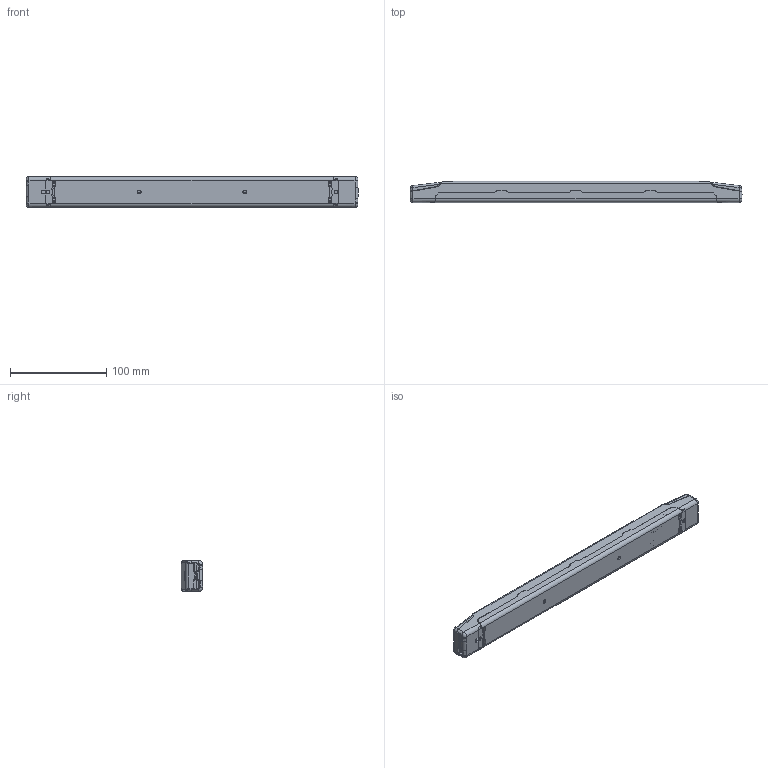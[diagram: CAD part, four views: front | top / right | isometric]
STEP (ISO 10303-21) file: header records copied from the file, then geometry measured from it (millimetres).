
FILE_DESCRIPTION (( 'STEP AP203' ), '1' );
FILE_NAME ('OTi80DALI-CV.STEP', '2017-02-17T08:35:43', ( '' ), ( '' ), 'SwSTEP 2.0', 'SolidWorks 2015', '' );
FILE_SCHEMA (( 'CONFIG_CONTROL_DESIGN' ));
Products named in the file (4): 1Q1-3365284-EN-01; OTi80DALI-CV; 1Q1-3365278-EN-01_Standard; 1Q1-3365280-EN-00_Vers. 01 Cavo 8,55 mm H05 3x1,5
Assembly tree (4 placements, depth 2):
  OTi80DALI-CV
    1Q1-3365278-EN-01_Standard
    1Q1-3365280-EN-00_Vers. 01 Cavo 8,55 mm H05 3x1,5
    1Q1-3365284-EN-01  x2
Bounding box: 345.69 x 22 x 32.13 mm (x, y, z)
Volume: 59662.7 mm3; surface area: 87114.3 mm2
Topology: 4 solids, 4 shells, 3177 faces, 8622 edges, 5586 vertices
Faces by surface type: plane 1597, bspline 902, cylinder 500, cone 120, sphere 32, torus 26
Entity records: 116029 total; most frequent: CARTESIAN_POINT 55625, ORIENTED_EDGE 14376, DIRECTION 9423, EDGE_CURVE 7188, VERTEX_POINT 4675, VECTOR 4395, LINE 4395, EDGE_LOOP 2809
